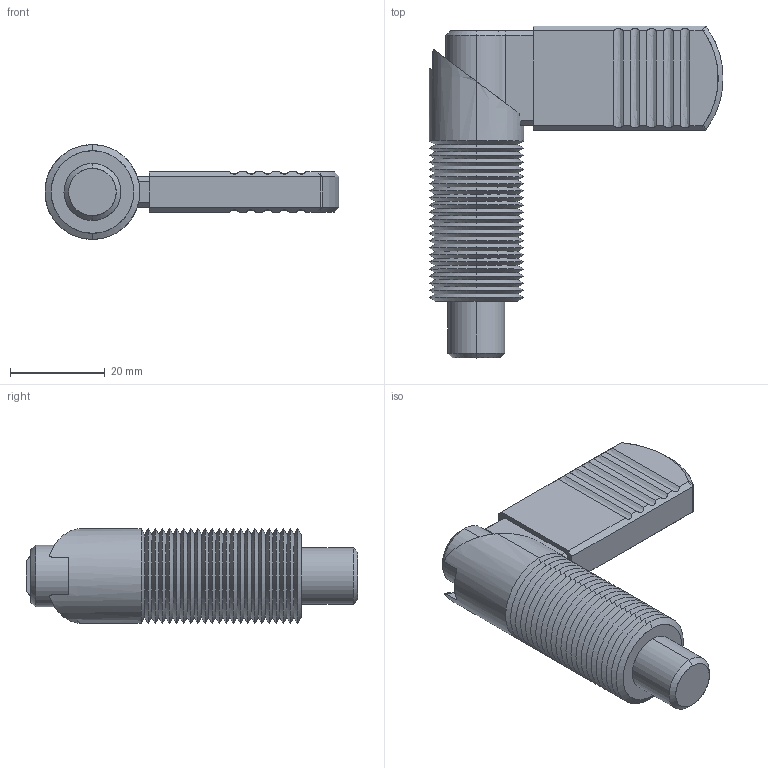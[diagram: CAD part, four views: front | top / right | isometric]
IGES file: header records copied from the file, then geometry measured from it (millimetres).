
Start section: SolidWorks IGES file using analytic representation for surfaces
Global section: file name: C:\Documents and Settings\IANO\My Documents\Wix and Auto CAD Work\CAD Models\Parametric Models\Wix Models\30000\32500_v2\32500_v2_20160309_IGES\32500.W0362.igs; native system: SolidWorks 2009; preprocessor: SolidWorks 2009; author: IANO; date: 160630.164533; units: millimetre
Bounding box: 62 x 70 x 20 mm (x, y, z)
Surface area: 16075 mm2 (no closed solid volume)
Topology: 0 solids, 0 shells, 220 faces, 2057 edges, 2057 vertices
Faces by surface type: revolution 162, bspline 58
